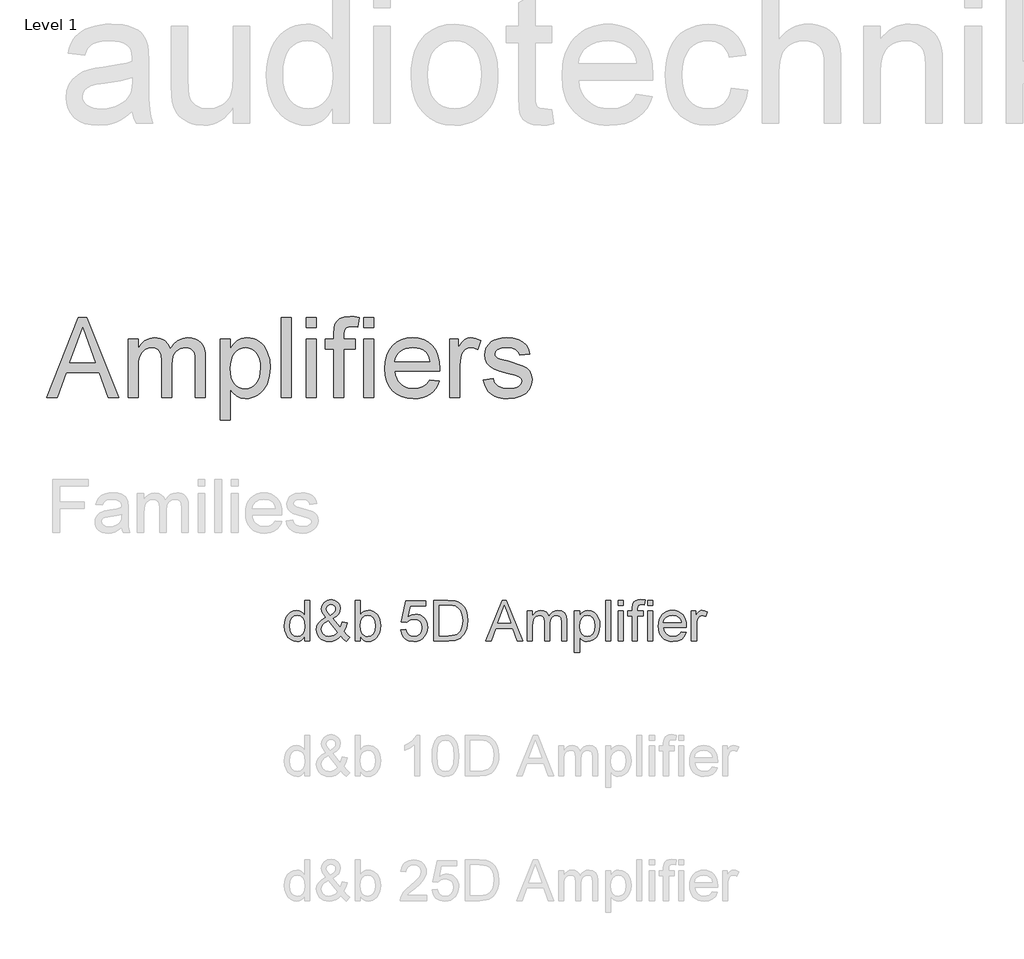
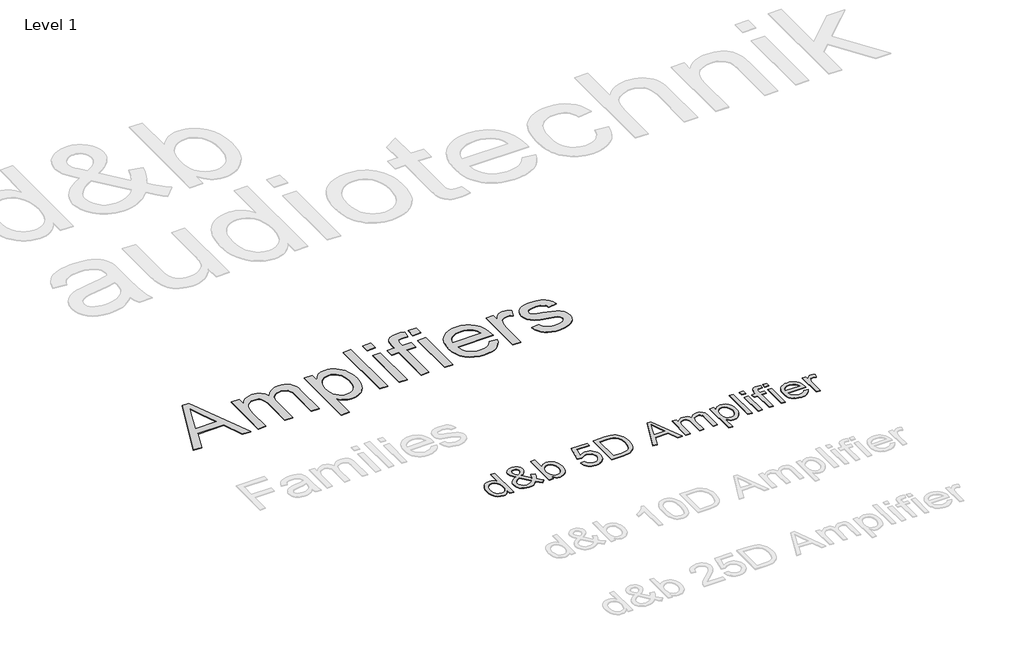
# One storey, part 11 of 14: 2 proxies.
"""IFC4 building model written with IfcOpenShell, lengths in millimetres."""

from ifc_helpers import new_model, si_unit, origin, origin_with_axes, place, context, project, spatial, polyline, outline, extrude, element, save

model = new_model("IFC4")

# Units and contexts
model_context = context("Model", 3, world=origin())
ifc_project = project(units=[si_unit("LENGTHUNIT", "METRE", prefix="MILLI")], contexts=[model_context])

# Site, building, storey
site = spatial("IfcSite", under=ifc_project)
building = spatial("IfcBuilding", under=site)
storey = spatial("IfcBuildingStorey", under=building, Name="Level 1", Elevation=0.0)

# Proxies
placement = place(None, origin())
element("IfcBuildingElementProxy", 1, Name="300mm Arial", ObjectType="300mm Arial", at=placement, inside=storey, context=model_context, shape_type="SweptSolid", body=[
    extrude(outline(polyline([(-19191.0990778, 16547.5788956), (-19191.0990778, 16583.1162963), (-19202.3700624, 16565.5085443), (-19216.0230829, 16552.9315786), (-19232.0581394, 16545.3853992), (-19250.4752318, 16542.870006), (-19274.8290199, 16546.5120378), (-19297.1226688, 16557.438133), (-19315.9950151, 16574.8849367), (-19330.0848956, 16598.0890935), (-19338.8588811, 16626.1125045), (-19341.783543, 16658.0170705), (-19339.0888074, 16689.5261634), (-19331.0046005, 16717.9818357), (-19317.5401195, 16741.7654067), (-19298.7045614, 16759.2581956), (-19275.9234688, 16770.018744), (-19250.6223846, 16773.6055934), (-19232.1914966, 16771.0396165), (-19215.8943242, 16763.3416858), (-19202.0803553, 16751.5418708), (-19191.0990778, 16736.6702411), (-19191.0990778, 16848.947826), (-19153.4279615, 16848.947826), (-19153.4279615, 16547.5788956), (-19191.0990778, 16547.5788956)]), holes=[polyline([(-19304.1124267, 16658.1642233), (-19299.8633896, 16624.0891535), (-19287.1162785, 16599.8549271), (-19268.5934201, 16585.3695735), (-19247.017141, 16580.5411223), (-19225.4500591, 16585.1488443), (-19207.3962502, 16598.9720103), (-19195.1733709, 16622.2681376), (-19191.0990778, 16655.2947438), (-19195.2469473, 16691.4023616), (-19207.6905558, 16716.4367314), (-19226.2042172, 16731.0600407), (-19248.5622454, 16735.9344771), (-19270.3592536, 16731.2531787), (-19288.2199245, 16717.2092836), (-19300.1393011, 16693.0854217), (-19304.1124267, 16658.1642233)])]), origin_with_axes(), (0.0, 0.0, 1.0), 5.0),
    extrude(outline(polyline([(-18924.0903257, 16584.8085535), (-18943.2385835, 16566.460439), (-18964.0423104, 16553.3546429), (-18986.5382944, 16545.4911653), (-19010.7633237, 16542.870006), (-19032.744273, 16544.8105836), (-19052.3339892, 16550.6323161), (-19069.5324725, 16560.3352038), (-19084.3397228, 16573.9192464), (-19100.8392303, 16600.7194498), (-19106.3390661, 16630.4994973), (-19101.9152851, 16656.8950304), (-19088.6439421, 16680.605025), (-19066.5802195, 16701.611087), (-19035.7792994, 16719.8948221), (-19062.0828621, 16758.0073968), (-19068.6679498, 16786.260734), (-19063.4808136, 16811.699774), (-19047.9194053, 16833.5703586), (-19024.5037163, 16848.6351263), (-18995.7537383, 16853.6567156), (-18968.401712, 16848.8558555), (-18946.5311274, 16834.4532754), (-18932.1837296, 16813.3184548), (-18927.4012636, 16788.3208732), (-18930.9421278, 16767.3332054), (-18941.5647204, 16747.9274302), (-18959.2690415, 16730.1035475), (-18984.0550909, 16713.8615574), (-18929.5349792, 16645.9505411), (-18920.2459588, 16665.3563163), (-18913.274595, 16687.6683593), (-18875.6034787, 16679.501379), (-18887.1917616, 16644.6077718), (-18902.2381352, 16617.4764747), (-18880.827403, 16592.4972872), (-18856.7679206, 16571.8591073), (-18885.0212578, 16542.870006), (-18904.243092, 16560.4547654), (-18924.0903257, 16584.8085535)]), holes=[polyline([(-18949.3270305, 16611.9582447), (-19016.5758593, 16695.908916), (-19042.2632196, 16679.5197731), (-19057.9625837, 16664.3446408), (-19065.9916083, 16649.8500902), (-19068.6679498, 16635.5026924), (-19065.0075239, 16617.7339921), (-19054.0262464, 16599.3031041), (-19036.3311224, 16585.2316178), (-19012.5291573, 16580.5411223), (-18995.4870239, 16582.7300202), (-18977.9114616, 16589.2967138), (-18961.8442154, 16599.3398923), (-18949.3270305, 16611.9582447)]), polyline([(-19003.1113782, 16737.6267343), (-18983.4112974, 16750.1255251), (-18972.1357142, 16760.987241), (-18966.8382135, 16771.5546513), (-18965.0723799, 16783.1705253), (-18967.3992336, 16796.3315037), (-18974.3797944, 16806.8253376), (-18984.8552342, 16813.6955338), (-18997.6667247, 16815.9855993), (-19010.7541267, 16813.7139279), (-19021.4686898, 16806.898914), (-19028.6147976, 16796.8097503), (-19030.9968335, 16784.7156297), (-19027.7594719, 16770.9200549), (-19017.9738108, 16755.5793757), (-19003.1113782, 16737.6267343)])]), origin_with_axes(), (0.0, 0.0, 1.0), 5.0),
    extrude(outline(polyline([(-18781.4256879, 16547.5788956), (-18819.0968043, 16547.5788956), (-18819.0968043, 16848.947826), (-18781.4256879, 16848.947826), (-18781.4256879, 16737.1852759), (-18769.0372618, 16753.1191648), (-18755.0485489, 16764.500514), (-18739.4595493, 16771.3293236), (-18722.2702631, 16773.6055934), (-18702.8644879, 16771.5546513), (-18684.5255704, 16765.4018249), (-18668.3019744, 16755.5333904), (-18655.2421636, 16742.3356238), (-18645.0058471, 16725.9372839), (-18637.252734, 16706.4671293), (-18632.3691005, 16684.7345004), (-18630.7412227, 16661.5487377), (-18632.4265821, 16634.7945196), (-18637.4826603, 16611.2592689), (-18645.9094572, 16590.9429858), (-18657.706973, 16573.84567), (-18671.8681305, 16560.293817), (-18687.3858529, 16550.613922), (-18704.2601402, 16544.805985), (-18722.4909923, 16542.870006), (-18740.2458971, 16545.3670051), (-18755.986648, 16552.8580022), (-18769.7132449, 16565.3429974), (-18781.4256879, 16582.8219907), (-18781.4256879, 16547.5788956)]), holes=[polyline([(-18781.4256879, 16659.7829041), (-18778.850514, 16628.3657817), (-18771.1249921, 16607.1022024), (-18761.9969201, 16595.4817299), (-18751.388123, 16587.1813924), (-18739.298601, 16582.2011899), (-18725.7283539, 16580.5411223), (-18703.986528, 16585.4339529), (-18685.4084872, 16600.1124445), (-18672.6613761, 16624.4846267), (-18668.412339, 16658.4585289), (-18672.4866321, 16692.9290719), (-18684.7095114, 16717.0253426), (-18702.708138, 16731.2071935), (-18724.1096731, 16735.9344771), (-18745.851499, 16731.0416466), (-18764.4295398, 16716.363155), (-18777.1766509, 16692.4324312), (-18781.4256879, 16659.7829041)])]), origin_with_axes(), (0.0, 0.0, 1.0), 5.0),
    extrude(outline(polyline([(-18480.0567575, 16627.6300177), (-18442.3856412, 16632.3389073), (-18435.4694597, 16609.7233616), (-18423.4029302, 16593.5273568), (-18406.2412352, 16583.787681), (-18384.0395568, 16580.5411223), (-18357.0370183, 16585.0568738), (-18336.8035086, 16598.6041283), (-18324.166762, 16619.6193873), (-18319.9545132, 16646.5391523), (-18323.9000476, 16671.8862217), (-18335.7366508, 16691.2736029), (-18355.5562933, 16703.5792556), (-18383.4509456, 16707.6811399), (-18401.7254837, 16706.044065), (-18416.5235369, 16701.1328404), (-18437.6767517, 16684.1366922), (-18475.347868, 16688.8455817), (-18442.3856412, 16844.2389365), (-18296.4100655, 16844.2389365), (-18296.4100655, 16806.5678202), (-18411.925012, 16806.5678202), (-18428.0382434, 16723.5736421), (-18401.1276754, 16739.9076027), (-18372.9295205, 16745.3522562), (-18354.5837053, 16743.6645975), (-18337.7324106, 16738.6016216), (-18322.3756366, 16730.1633283), (-18308.5133831, 16718.3497177), (-18297.0377642, 16703.8827583), (-18288.8408935, 16687.4844183), (-18283.922771, 16669.1546979), (-18282.2833969, 16648.8935971), (-18288.1879029, 16611.2224807), (-18295.5685354, 16594.4286677), (-18305.901421, 16578.996018), (-18321.5547999, 16563.1908877), (-18339.8201409, 16551.901509), (-18360.6974442, 16545.1278818), (-18384.1867096, 16542.870006), (-18421.1864412, 16548.6733445), (-18436.865112, 16555.9275176), (-18450.6629861, 16566.0833599), (-18462.1432036, 16578.6350338), (-18470.8689047, 16593.0767013), (-18480.0567575, 16627.6300177)])), origin_with_axes(), (0.0, 0.0, 1.0), 5.0),
    extrude(outline(polyline([(-18235.1945015, 16547.5788956), (-18235.1945015, 16848.947826), (-18131.2310497, 16848.947826), (-18077.446702, 16844.6068185), (-18053.4240077, 16836.2375031), (-18033.1537098, 16823.0489336), (-18012.3131947, 16800.0930971), (-17997.4691562, 16771.5454542), (-17988.584806, 16737.9578281), (-17985.623356, 16699.8820416), (-17987.6283129, 16667.5360172), (-17993.6431835, 16639.0711478), (-18002.8034452, 16614.8369213), (-18014.2445752, 16595.1828258), (-18027.4147506, 16579.6674026), (-18041.7621484, 16567.8491935), (-18058.2340648, 16559.084405), (-18077.7777958, 16552.7292435), (-18126.2278545, 16547.5788956), (-18235.1945015, 16547.5788956)]), holes=[polyline([(-18197.5233852, 16585.2500119), (-18130.8631677, 16585.2500119), (-18103.2904121, 16586.6111753), (-18082.3763207, 16590.6946654), (-18066.5941831, 16597.261359), (-18054.4172891, 16606.0721328), (-18041.3298871, 16622.3785022), (-18031.4982408, 16643.4857317), (-18025.3454144, 16669.4857917), (-18023.2944723, 16700.4706528), (-18027.3135831, 16741.5262834), (-18039.3709155, 16771.8397598), (-18057.1856011, 16792.6618808), (-18078.4767716, 16805.243445), (-18100.1450211, 16809.7683935), (-18131.8932373, 16811.2767097), (-18197.5233852, 16811.2767097), (-18197.5233852, 16585.2500119)])]), origin_with_axes(), (0.0, 0.0, 1.0), 5.0),
    extrude(outline(polyline([(-17851.1992749, 16547.5788956), (-17730.9018625, 16848.947826), (-17698.8225525, 16848.947826), (-17578.5251401, 16547.5788956), (-17618.329972, 16547.5788956), (-17652.8373031, 16641.7566863), (-17776.9606883, 16641.7566863), (-17811.3944431, 16547.5788956), (-17851.1992749, 16547.5788956)]), holes=[polyline([(-17763.1283253, 16679.4278027), (-17666.5960898, 16679.4278027), (-17693.745781, 16753.5192365), (-17714.8622075, 16811.2767097), (-17733.6241893, 16759.9939596), (-17763.1283253, 16679.4278027)])]), origin_with_axes(), (0.0, 0.0, 1.0), 5.0),
    extrude(outline(polyline([(-17542.9877394, 16547.5788956), (-17542.9877394, 16768.8967039), (-17505.3166231, 16768.8967039), (-17505.3166231, 16732.4763864), (-17493.9858576, 16749.2058201), (-17479.4177306, 16762.3116162), (-17462.1088827, 16770.7820991), (-17442.5559547, 16773.6055934), (-17421.6050751, 16770.7269168), (-17404.811262, 16762.090887), (-17392.266486, 16748.267721), (-17384.0627175, 16729.827636), (-17370.331522, 16748.9804924), (-17354.6689461, 16762.6611041), (-17337.0749896, 16770.8694711), (-17317.5496527, 16773.6055934), (-17289.2319362, 16769.0530537), (-17268.2902536, 16755.3954347), (-17255.3500044, 16732.2648542), (-17251.036588, 16699.2934304), (-17251.036588, 16547.5788956), (-17288.7077043, 16547.5788956), (-17288.7077043, 16683.1066226), (-17292.2025833, 16714.5605332), (-17297.1138079, 16723.2333512), (-17304.8577239, 16730.0483652), (-17314.8181289, 16734.4629491), (-17326.3788206, 16735.9344771), (-17346.7870743, 16732.1636867), (-17363.4245375, 16720.8513153), (-17374.4885885, 16701.2248109), (-17378.1766055, 16672.5116211), (-17378.1766055, 16547.5788956), (-17415.8477218, 16547.5788956), (-17415.8477218, 16687.3004773), (-17418.0274227, 16708.6008449), (-17424.5665251, 16723.7943713), (-17436.0720345, 16732.8994506), (-17453.1509562, 16735.9344771), (-17467.6639009, 16733.9111261), (-17481.0364114, 16727.8410732), (-17492.0728712, 16717.8714711), (-17499.577664, 16704.1494727), (-17503.8818833, 16685.1115795), (-17505.3166231, 16659.1942929), (-17505.3166231, 16547.5788956), (-17542.9877394, 16547.5788956)])), origin_with_axes(), (0.0, 0.0, 1.0), 5.0),
    extrude(outline(polyline([(-17194.5299136, 16462.8188839), (-17194.5299136, 16768.8967039), (-17156.8587972, 16768.8967039), (-17156.8587972, 16731.9613516), (-17144.5715386, 16750.1807074), (-17130.812752, 16763.194533), (-17114.773097, 16771.0028283), (-17095.6432332, 16773.6055934), (-17070.1674051, 16769.9635617), (-17047.8921503, 16759.0374664), (-17029.7555679, 16741.4894952), (-17016.6957571, 16717.9818357), (-17008.8046883, 16690.2251392), (-17006.174332, 16659.9300569), (-17009.1449791, 16627.7127912), (-17018.0569205, 16598.8984339), (-17032.6250475, 16574.949316), (-17052.5642516, 16557.3277685), (-17075.7868026, 16546.4844466), (-17100.20497, 16542.870006), (-17117.5230149, 16545.2888302), (-17132.9832558, 16552.5453025), (-17146.2178105, 16563.4989889), (-17156.8587972, 16577.0094552), (-17156.8587972, 16462.8188839), (-17194.5299136, 16462.8188839)]), holes=[polyline([(-17156.8587972, 16656.4719662), (-17152.7845041, 16622.700399), (-17140.5616249, 16599.0823749), (-17122.52621, 16585.1764355), (-17101.0143104, 16580.5411223), (-17079.1529228, 16585.3419824), (-17060.6576555, 16599.7445625), (-17048.0485001, 16624.2271093), (-17043.8454483, 16659.2678693), (-17047.9473326, 16692.8554955), (-17060.2529853, 16716.8046134), (-17078.260809, 16731.1520112), (-17099.469206, 16735.9344771), (-17120.7603765, 16730.8485085), (-17139.4579789, 16715.5906028), (-17152.5085927, 16690.6390065), (-17156.8587972, 16656.4719662)])]), origin_with_axes(), (0.0, 0.0, 1.0), 5.0),
    extrude(outline(polyline([(-16963.7943262, 16547.5788956), (-16963.7943262, 16848.947826), (-16926.1232099, 16848.947826), (-16926.1232099, 16547.5788956), (-16963.7943262, 16547.5788956)])), origin_with_axes(), (0.0, 0.0, 1.0), 5.0),
    extrude(outline(polyline([(-16869.6165354, 16547.5788956), (-16869.6165354, 16768.8967039), (-16831.9454191, 16768.8967039), (-16831.9454191, 16547.5788956), (-16869.6165354, 16547.5788956)])), origin_with_axes(), (0.0, 0.0, 1.0), 5.0),
    extrude(outline(polyline([(-16869.6165354, 16811.2767097), (-16869.6165354, 16848.947826), (-16831.9454191, 16848.947826), (-16831.9454191, 16811.2767097), (-16869.6165354, 16811.2767097)])), origin_with_axes(), (0.0, 0.0, 1.0), 5.0),
    extrude(outline(polyline([(-16766.0209656, 16547.5788956), (-16766.0209656, 16731.2255876), (-16798.9831923, 16731.2255876), (-16798.9831923, 16768.8967039), (-16766.0209656, 16768.8967039), (-16766.0209656, 16791.1903528), (-16762.04784, 16822.6074752), (-16754.4694709, 16835.1338571), (-16742.7708235, 16845.0482769), (-16726.4000747, 16851.5046059), (-16704.8054016, 16853.6567156), (-16670.4452232, 16849.5364372), (-16675.9634531, 16814.2197657), (-16697.6684909, 16815.9855993), (-16711.9882975, 16814.4221008), (-16721.3968796, 16809.7316053), (-16726.6116068, 16800.7736788), (-16728.3498493, 16786.4078868), (-16728.3498493, 16768.8967039), (-16685.9698434, 16768.8967039), (-16685.9698434, 16731.2255876), (-16728.3498493, 16731.2255876), (-16728.3498493, 16547.5788956), (-16766.0209656, 16547.5788956)])), origin_with_axes(), (0.0, 0.0, 1.0), 5.0),
    extrude(outline(polyline([(-16653.0076167, 16811.2767097), (-16653.0076167, 16848.947826), (-16615.3365003, 16848.947826), (-16615.3365003, 16811.2767097), (-16653.0076167, 16811.2767097)])), origin_with_axes(), (0.0, 0.0, 1.0), 5.0),
    extrude(outline(polyline([(-16653.0076167, 16547.5788956), (-16653.0076167, 16768.8967039), (-16615.3365003, 16768.8967039), (-16615.3365003, 16547.5788956), (-16653.0076167, 16547.5788956)])), origin_with_axes(), (0.0, 0.0, 1.0), 5.0),
    extrude(outline(polyline([(-16403.8779295, 16613.5033491), (-16366.9425772, 16608.7944596), (-16380.2507084, 16580.9641866), (-16401.4866965, 16560.1604598), (-16430.1722951, 16547.1926195), (-16465.8292575, 16542.870006), (-16489.2035598, 16544.7347079), (-16510.0302792, 16550.3288135), (-16528.3094159, 16559.6523228), (-16544.0409697, 16572.7052358), (-16556.6915118, 16589.1242691), (-16565.7276133, 16608.5461392), (-16571.1492742, 16630.9708461), (-16572.9564945, 16656.3983898), (-16571.1308801, 16682.6881568), (-16565.6540369, 16705.860124), (-16556.5259649, 16725.9142913), (-16543.7466641, 16742.8506586), (-16528.056497, 16756.3059426), (-16510.1958261, 16765.9168597), (-16490.1646515, 16771.68341), (-16467.9629731, 16773.6055934), (-16446.4763653, 16771.6880085), (-16427.0452982, 16765.9352538), (-16409.6697717, 16756.3473293), (-16394.3497858, 16742.924235), (-16381.8440973, 16726.0246559), (-16372.9114626, 16706.0072768), (-16367.5518818, 16682.8720978), (-16365.7653548, 16656.6191189), (-16365.986084, 16646.4655759), (-16535.2853782, 16646.4655759), (-16528.7646698, 16618.267421), (-16513.6171287, 16597.5372705), (-16491.7557411, 16584.7901594), (-16465.0934935, 16580.5411223), (-16445.0439248, 16582.509291), (-16428.1581412, 16588.413797), (-16414.4361428, 16598.6225224), (-16403.8779295, 16613.5033491)]), holes=[polyline([(-16535.2853782, 16684.1366922), (-16403.4364711, 16684.1366922), (-16408.5316368, 16704.0391081), (-16418.5196329, 16718.2761413), (-16440.482188, 16731.5198932), (-16468.1101259, 16735.9344771), (-16493.5031806, 16732.412007), (-16514.5000455, 16721.8445967), (-16529.0957636, 16705.3726804), (-16535.2853782, 16684.1366922)])]), origin_with_axes(), (0.0, 0.0, 1.0), 5.0),
    extrude(outline(polyline([(-16328.0942385, 16547.5788956), (-16328.0942385, 16768.8967039), (-16295.1320117, 16768.8967039), (-16295.1320117, 16736.1552063), (-16282.9551177, 16755.1379173), (-16271.7347168, 16766.3215299), (-16260.4775278, 16771.7845775), (-16248.1902692, 16773.6055934), (-16229.4282874, 16770.6993257), (-16210.3720001, 16761.9805224), (-16222.9535643, 16728.2089552), (-16236.1973161, 16734.0030966), (-16249.4410679, 16735.9344771), (-16260.6890599, 16734.076673), (-16270.7414355, 16728.5032608), (-16278.8624305, 16719.6373047), (-16284.3162811, 16707.9018691), (-16288.8964119, 16686.859019), (-16290.4231222, 16663.9031825), (-16290.4231222, 16547.5788956), (-16328.0942385, 16547.5788956)])), origin_with_axes(), (0.0, 0.0, 1.0), 5.0),
])
element("IfcBuildingElementProxy", 2, Name="600mm Arial", ObjectType="600mm Arial", at=placement, inside=storey, context=model_context, shape_type="SweptSolid", body=[
    extrude(outline(polyline([(-21103.7520682, 18351.3054836), (-20867.9347605, 18942.0747143), (-20805.0501451, 18942.0747143), (-20569.2328374, 18351.3054836), (-20647.2616836, 18351.3054836), (-20714.9059143, 18535.9208682), (-20958.223222, 18535.9208682), (-21025.723222, 18351.3054836), (-21103.7520682, 18351.3054836)]), holes=[polyline([(-20931.1078374, 18609.767022), (-20741.8770682, 18609.767022), (-20795.098222, 18755.0074066), (-20836.4924528, 18868.2285605), (-20873.271299, 18767.6997143), (-20931.1078374, 18609.767022)])]), origin_with_axes(), (0.0, 0.0, 1.0), 5.0),
    extrude(outline(polyline([(-20499.5693759, 18351.3054836), (-20499.5693759, 18785.1516374), (-20425.723222, 18785.1516374), (-20425.723222, 18713.7574066), (-20403.5116836, 18746.5518778), (-20374.9539913, 18772.2429836), (-20341.0237028, 18788.8475509), (-20302.6943759, 18794.3824066), (-20261.6246643, 18788.7393778), (-20244.145698, 18781.6855917), (-20228.7039913, 18771.8102913), (-20204.1126451, 18744.7129355), (-20188.0309143, 18708.565099), (-20161.113847, 18746.1101711), (-20130.410722, 18772.9280797), (-20095.9215393, 18789.0188249), (-20057.646299, 18794.3824066), (-20028.0834985, 18792.1513369), (-20002.1354817, 18785.4581278), (-19979.8022485, 18774.3027792), (-19961.083799, 18758.6852913), (-19946.2866235, 18738.4253754), (-19935.7172124, 18713.3427432), (-19929.3755658, 18683.4373946), (-19927.2616836, 18648.7093297), (-19927.2616836, 18351.3054836), (-20001.1078374, 18351.3054836), (-20001.1078374, 18616.9785605), (-20002.8205778, 18653.8114932), (-20007.958799, 18678.6372143), (-20017.5862028, 18695.6384163), (-20032.7664913, 18708.9977913), (-20052.2917317, 18717.6516374), (-20074.9539913, 18720.5362528), (-20095.8809744, 18718.6882961), (-20114.9600009, 18713.1444259), (-20132.1910706, 18703.9046422), (-20147.5741836, 18690.9689451), (-20160.2259264, 18673.9587288), (-20169.2628855, 18652.4953874), (-20174.685061, 18626.5789211), (-20176.4924528, 18596.2093297), (-20176.4924528, 18351.3054836), (-20250.3386067, 18351.3054836), (-20250.3386067, 18625.1997143), (-20254.6114432, 18666.954522), (-20267.4299528, 18696.7381759), (-20277.341311, 18707.1498345), (-20289.9840393, 18714.5867336), (-20305.3581379, 18719.048873), (-20323.4636067, 18720.5362528), (-20351.9131259, 18716.5699066), (-20378.1270682, 18704.6708682), (-20399.7616836, 18685.127599), (-20414.473222, 18658.2285605), (-20422.910722, 18620.908849), (-20425.723222, 18570.1035605), (-20425.723222, 18351.3054836), (-20499.5693759, 18351.3054836)])), origin_with_axes(), (0.0, 0.0, 1.0), 5.0),
    extrude(outline(polyline([(-19816.4924528, 18185.1516374), (-19816.4924528, 18785.1516374), (-19742.646299, 18785.1516374), (-19742.646299, 18712.7477913), (-19718.5597605, 18748.4629355), (-19691.5886067, 18773.9737528), (-19660.146299, 18789.2802432), (-19622.646299, 18794.3824066), (-19596.8920922, 18792.5975509), (-19572.7063951, 18787.2429836), (-19550.0892076, 18778.3187047), (-19529.0405297, 18765.8247143), (-19510.020097, 18750.0855316), (-19493.4876451, 18731.4256759), (-19479.443174, 18709.845147), (-19467.8866836, 18685.3439451), (-19452.4179336, 18630.9328874), (-19447.2616836, 18571.5458682), (-19453.0850009, 18508.3908201), (-19460.3641475, 18479.3147985), (-19470.5549528, 18451.9064451), (-19483.5176932, 18426.8824066), (-19499.1126451, 18404.9593297), (-19517.3398086, 18386.1372143), (-19538.1991836, 18370.4160605), (-19560.6676331, 18358.0167216), (-19583.7220201, 18349.1600509), (-19607.3623446, 18343.8460485), (-19631.5886067, 18342.0747143), (-19665.536924, 18346.8163009), (-19695.8434143, 18361.0410605), (-19721.786924, 18382.5134163), (-19742.646299, 18408.9977913), (-19742.646299, 18185.1516374), (-19816.4924528, 18185.1516374)]), holes=[polyline([(-19742.646299, 18564.767022), (-19740.6496042, 18529.1780797), (-19734.6595201, 18498.565099), (-19724.6760466, 18472.9280797), (-19710.6991836, 18452.267022), (-19693.8737629, 18436.3655797), (-19675.3446163, 18425.0074066), (-19655.1117437, 18418.1925028), (-19633.1751451, 18415.9208682), (-19610.9230417, 18418.2736326), (-19590.3205778, 18425.3319259), (-19571.3677533, 18437.095748), (-19554.0645682, 18453.565099), (-19539.6459985, 18474.9743538), (-19529.3470201, 18501.5578874), (-19523.1676331, 18533.3156999), (-19521.1078374, 18570.2477913), (-19523.1180538, 18605.5302432), (-19529.1487028, 18636.0891374), (-19539.1997845, 18661.924474), (-19553.271299, 18683.0362528), (-19570.1372845, 18699.4425028), (-19588.5717797, 18711.1612528), (-19608.5747845, 18718.1925028), (-19630.146299, 18720.5362528), (-19651.6502052, 18718.0437648), (-19671.8830778, 18710.5663009), (-19690.8449167, 18698.103861), (-19708.535722, 18680.6564451), (-19723.4590994, 18658.4584283), (-19734.1186547, 18631.7441855), (-19740.5143879, 18600.5137167), (-19742.646299, 18564.767022)])]), origin_with_axes(), (0.0, 0.0, 1.0), 5.0),
    extrude(outline(polyline([(-19364.1847605, 18351.3054836), (-19364.1847605, 18942.0747143), (-19290.3386067, 18942.0747143), (-19290.3386067, 18351.3054836), (-19364.1847605, 18351.3054836)])), origin_with_axes(), (0.0, 0.0, 1.0), 5.0),
    extrude(outline(polyline([(-19179.5693759, 18868.2285605), (-19179.5693759, 18942.0747143), (-19105.723222, 18942.0747143), (-19105.723222, 18868.2285605), (-19179.5693759, 18868.2285605)])), origin_with_axes(), (0.0, 0.0, 1.0), 5.0),
    extrude(outline(polyline([(-19179.5693759, 18351.3054836), (-19179.5693759, 18785.1516374), (-19105.723222, 18785.1516374), (-19105.723222, 18351.3054836), (-19179.5693759, 18351.3054836)])), origin_with_axes(), (0.0, 0.0, 1.0), 5.0),
    extrude(outline(polyline([(-18976.4924528, 18351.3054836), (-18976.4924528, 18711.3054836), (-19041.1078374, 18711.3054836), (-19041.1078374, 18785.1516374), (-18976.4924528, 18785.1516374), (-18976.4924528, 18828.8535605), (-18974.5453374, 18865.0194259), (-18968.7039913, 18890.440099), (-18953.848222, 18914.9953874), (-18930.9155297, 18934.4304836), (-18898.8241836, 18947.0867336), (-18856.4924528, 18951.3054836), (-18824.4371643, 18949.2862528), (-18789.1366836, 18943.2285605), (-18799.9539913, 18873.9977913), (-18842.5020682, 18877.4593297), (-18870.5729817, 18874.3944259), (-18889.0164913, 18865.1997143), (-18899.238847, 18847.6396182), (-18902.646299, 18819.4785605), (-18902.646299, 18785.1516374), (-18819.5693759, 18785.1516374), (-18819.5693759, 18711.3054836), (-18902.646299, 18711.3054836), (-18902.646299, 18351.3054836), (-18976.4924528, 18351.3054836)])), origin_with_axes(), (0.0, 0.0, 1.0), 5.0),
    extrude(outline(polyline([(-18754.9539913, 18868.2285605), (-18754.9539913, 18942.0747143), (-18681.1078374, 18942.0747143), (-18681.1078374, 18868.2285605), (-18754.9539913, 18868.2285605)])), origin_with_axes(), (0.0, 0.0, 1.0), 5.0),
    extrude(outline(polyline([(-18754.9539913, 18351.3054836), (-18754.9539913, 18785.1516374), (-18681.1078374, 18785.1516374), (-18681.1078374, 18351.3054836), (-18754.9539913, 18351.3054836)])), origin_with_axes(), (0.0, 0.0, 1.0), 5.0),
    extrude(outline(polyline([(-18266.5886067, 18480.5362528), (-18194.1847605, 18471.3054836), (-18205.2860225, 18442.3060845), (-18220.2725009, 18416.7501951), (-18239.1441956, 18394.6378153), (-18261.9011067, 18375.9689451), (-18288.3088591, 18361.1402191), (-18318.1330778, 18350.548272), (-18351.3737629, 18344.1931038), (-18388.0309143, 18342.0747143), (-18433.8512268, 18345.7300629), (-18474.677549, 18356.6961086), (-18510.5098807, 18374.9728514), (-18541.348222, 18400.5602913), (-18566.1468999, 18432.7462889), (-18583.8602413, 18470.8187047), (-18594.4882461, 18514.7775389), (-18598.0309143, 18564.6227913), (-18594.4521884, 18616.158248), (-18583.7160105, 18661.5819259), (-18565.8223807, 18700.8938249), (-18540.771299, 18734.0939451), (-18510.0140874, 18760.470147), (-18475.0020682, 18779.3102913), (-18435.7352413, 18790.6143778), (-18392.2136067, 18794.3824066), (-18350.0937148, 18790.6233922), (-18312.0032701, 18779.346349), (-18277.9422725, 18760.5512768), (-18247.910722, 18734.2381759), (-18223.3959985, 18701.1101711), (-18205.8854817, 18661.8703874), (-18195.3791716, 18616.5188249), (-18191.8770682, 18565.0554836), (-18192.3097605, 18545.1516374), (-18524.1847605, 18545.1516374), (-18519.9074167, 18515.6834884), (-18511.4023086, 18489.8751951), (-18498.669436, 18467.7267576), (-18481.708799, 18449.2381759), (-18461.4578975, 18434.6618538), (-18438.8542317, 18424.2501951), (-18413.8978014, 18418.0031999), (-18386.5886067, 18415.9208682), (-18347.285722, 18419.7790413), (-18314.1847605, 18431.3535605), (-18287.285722, 18451.3655797), (-18266.5886067, 18480.5362528)]), holes=[polyline([(-18524.1847605, 18618.9977913), (-18265.723222, 18618.9977913), (-18275.7112028, 18658.0122143), (-18284.301948, 18673.3547624), (-18295.2905297, 18685.9208682), (-18315.4287509, 18701.065099), (-18338.3434143, 18711.8824066), (-18364.0345201, 18718.3727913), (-18392.5020682, 18720.5362528), (-18418.4681139, 18718.8099908), (-18442.2797124, 18713.6312047), (-18463.9368639, 18704.9998946), (-18483.4395682, 18692.9160605), (-18499.8052533, 18677.9385966), (-18512.051347, 18660.626397), (-18520.1778494, 18640.9794619), (-18524.1847605, 18618.9977913)])]), origin_with_axes(), (0.0, 0.0, 1.0), 5.0),
    extrude(outline(polyline([(-18118.0309143, 18351.3054836), (-18118.0309143, 18785.1516374), (-18053.4155297, 18785.1516374), (-18053.4155297, 18720.9689451), (-18029.5453374, 18758.1804836), (-18007.5501451, 18780.1035605), (-17985.4828374, 18790.8126951), (-17961.396299, 18794.3824066), (-17924.6174528, 18788.6852913), (-17887.2616836, 18771.5939451), (-17911.9251451, 18705.392022), (-17937.8866836, 18716.7501951), (-17963.848222, 18720.5362528), (-17985.8975009, 18716.8944259), (-18005.6030297, 18705.9689451), (-18021.5225009, 18688.5891374), (-18032.2136067, 18665.5843297), (-18041.191972, 18624.3343297), (-18044.1847605, 18579.3343297), (-18044.1847605, 18351.3054836), (-18118.0309143, 18351.3054836)])), origin_with_axes(), (0.0, 0.0, 1.0), 5.0),
    extrude(outline(polyline([(-17868.8001451, 18480.5362528), (-17794.9539913, 18489.767022), (-17790.4918518, 18472.9280797), (-17783.3073567, 18458.1804836), (-17773.4005057, 18445.5242336), (-17760.771299, 18434.9593297), (-17745.3836788, 18426.6300028), (-17727.2015874, 18420.6804836), (-17682.4539913, 18415.9208682), (-17638.2472605, 18420.283849), (-17621.0657701, 18425.7375749), (-17607.1655297, 18433.3727913), (-17588.7761067, 18452.3391374), (-17582.646299, 18474.3343297), (-17584.1877653, 18484.3042816), (-17588.8121643, 18493.1564451), (-17607.3097605, 18507.5074066), (-17634.9660105, 18516.8824066), (-17683.3193759, 18528.565099), (-17750.7112028, 18548.0542816), (-17794.521299, 18564.6949066), (-17822.6643278, 18582.8499547), (-17843.0549528, 18606.8824066), (-17855.4407701, 18635.2598105), (-17859.5693759, 18666.4497143), (-17856.2520682, 18695.0614932), (-17846.3001451, 18721.4737528), (-17830.615049, 18744.6408201), (-17810.098222, 18763.517022), (-17789.707597, 18775.3980316), (-17763.1511067, 18785.3679836), (-17732.4479817, 18792.1288009), (-17699.6174528, 18794.3824066), (-17651.552549, 18790.7586086), (-17609.7616836, 18779.8872143), (-17576.1559143, 18762.8319259), (-17552.646299, 18740.6564451), (-17537.0693759, 18711.720147), (-17527.2616836, 18674.3824066), (-17601.1078374, 18665.1516374), (-17610.4287509, 18688.3908201), (-17628.8722605, 18705.8968297), (-17656.6186547, 18716.876397), (-17693.848222, 18720.5362528), (-17736.2520682, 18717.0386566), (-17764.521299, 18706.5458682), (-17780.4227413, 18691.4016374), (-17785.723222, 18673.9497143), (-17783.5237028, 18662.5915413), (-17776.9251451, 18652.4593297), (-17765.6390874, 18643.408849), (-17749.3770682, 18636.1612528), (-17685.771299, 18620.440099), (-17577.3818759, 18585.6804836), (-17548.7520682, 18569.0578874), (-17527.0453374, 18546.3054836), (-17513.3614432, 18517.3511566), (-17508.8001451, 18482.1227913), (-17514.1547124, 18445.704522), (-17530.2184143, 18411.4497143), (-17556.3782701, 18382.0446663), (-17592.021299, 18360.1756759), (-17635.0741836, 18346.5999547), (-17683.4636067, 18342.0747143), (-17723.208198, 18344.2562047), (-17757.9227413, 18350.8006759), (-17787.6072365, 18361.7081278), (-17812.2616836, 18376.9785605), (-17832.3999047, 18396.5398586), (-17848.535722, 18420.3199066), (-17860.6691355, 18448.3187047), (-17868.8001451, 18480.5362528)])), origin_with_axes(), (0.0, 0.0, 1.0), 5.0),
])

save(model, "model.ifc")
